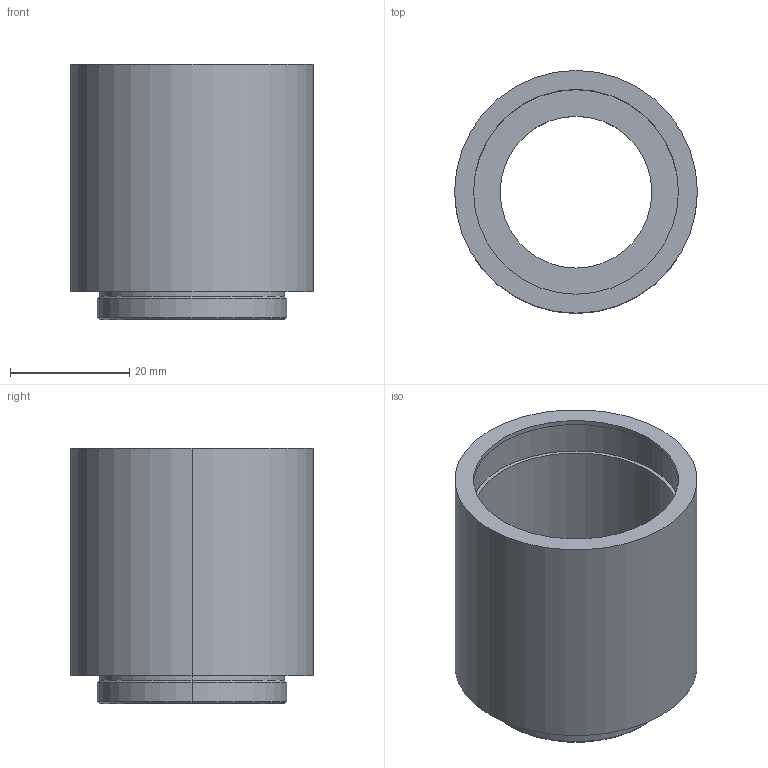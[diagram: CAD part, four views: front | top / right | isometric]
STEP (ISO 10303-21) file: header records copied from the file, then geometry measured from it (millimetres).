
FILE_DESCRIPTION (( 'STEP AP214' ), '1' );
FILE_NAME ('BTQ-25-2-L.STEP', '2017-03-29T20:08:58', ( '' ), ( '' ), 'SwSTEP 2.0', 'SolidWorks 2017', '' );
FILE_SCHEMA (( 'AUTOMOTIVE_DESIGN' ));
Length unit declared in the file: inch
Products named in the file (1): BTQ-25-2-L
Bounding box: 40.64 x 40.64 x 42.85 mm (x, y, z)
Volume: 16464.9 mm3; surface area: 11504.8 mm2
Topology: 1 solids, 1 shells, 24 faces, 48 edges, 30 vertices
Faces by surface type: cylinder 14, plane 6, cone 4
Entity records: 678 total; most frequent: DIRECTION 128, CARTESIAN_POINT 103, ORIENTED_EDGE 96, AXIS2_PLACEMENT_3D 55, EDGE_CURVE 48, CIRCLE 30, VERTEX_POINT 30, EDGE_LOOP 30
